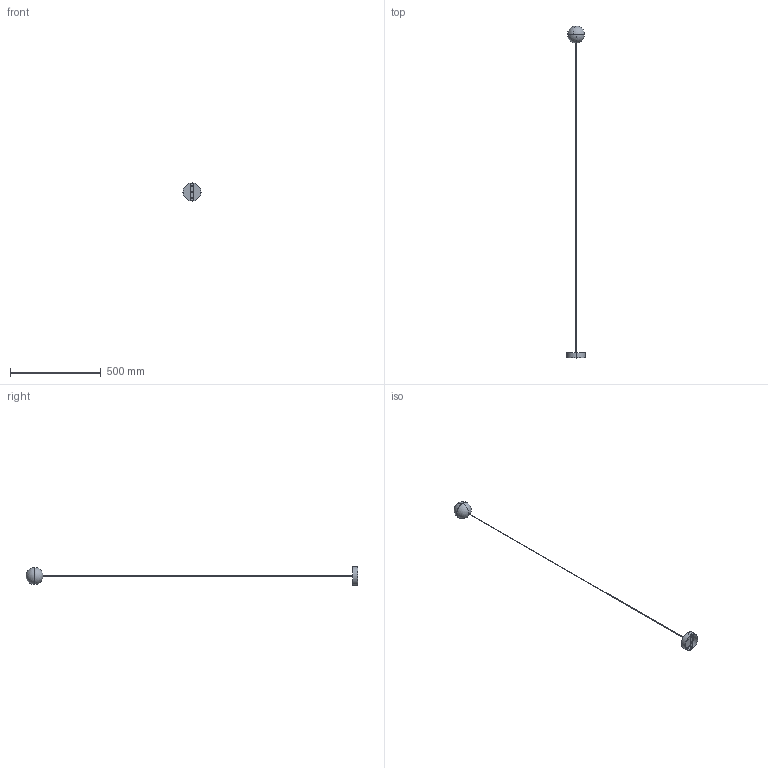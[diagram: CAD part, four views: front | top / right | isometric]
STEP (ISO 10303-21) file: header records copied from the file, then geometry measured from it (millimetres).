
FILE_DESCRIPTION (( 'STEP AP203' ), '1' );
FILE_NAME ('CUSTO - C3818.STEP', '2026-04-07T05:26:23', ( '' ), ( '' ), 'SwSTEP 2.0', 'SolidWorks 2025', '' );
FILE_SCHEMA (( 'CONFIG_CONTROL_DESIGN' ));
Length unit declared in the file: millimetre
Products named in the file (3): CUSTO - C3818; FLORON+PARTE SUPERIOR BOLA; ACRILICO BOLA
Assembly tree (2 placements, depth 2):
  CUSTO - C3818
    FLORON+PARTE SUPERIOR BOLA
    ACRILICO BOLA
Bounding box: 100 x 1828 x 100 mm (x, y, z)
Volume: 291057.8 mm3; surface area: 99866.1 mm2
Topology: 6 solids, 6 shells, 54 faces, 125 edges, 81 vertices
Faces by surface type: plane 25, cylinder 19, sphere 6, torus 4
Entity records: 1776 total; most frequent: DIRECTION 289, CARTESIAN_POINT 247, ORIENTED_EDGE 226, AXIS2_PLACEMENT_3D 117, EDGE_CURVE 113, VERTEX_POINT 75, EDGE_LOOP 64, CIRCLE 58
